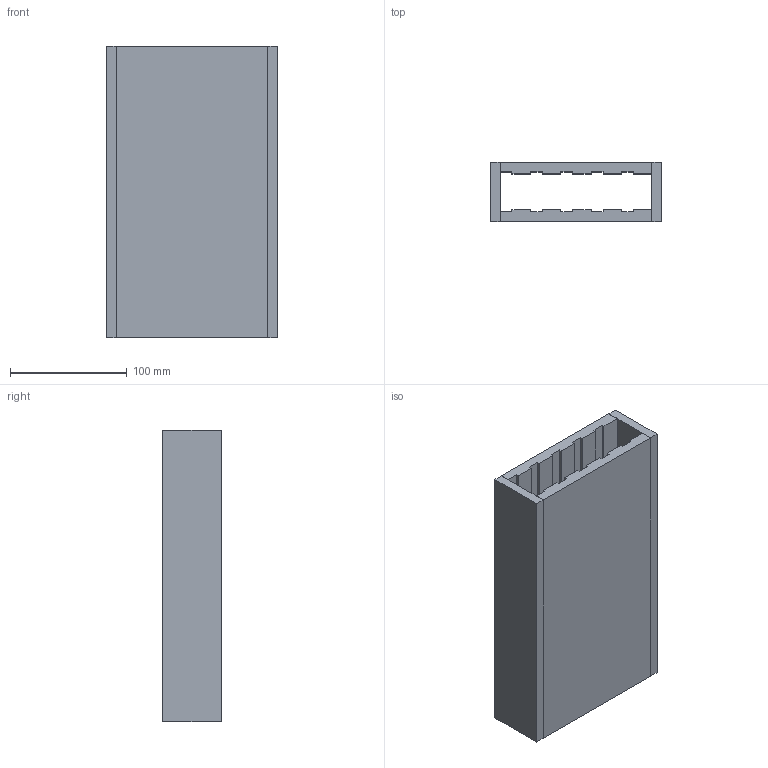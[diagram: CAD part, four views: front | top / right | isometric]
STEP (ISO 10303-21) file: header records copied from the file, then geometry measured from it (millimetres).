
FILE_DESCRIPTION (( 'STEP AP203' ), '1' );
FILE_NAME ('E1.S_25mm.STEP', '2021-08-02T20:59:38', ( '' ), ( '' ), 'SwSTEP 2.0', 'SolidWorks 2020', '' );
FILE_SCHEMA (( 'CONFIG_CONTROL_DESIGN' ));
Length unit declared in the file: millimetre
Products named in the file (3): E1.S_25mm; SSD Wind Tunnel Fixture_SIDES_E1.S; SSD Wind Tunnel Fixture_BASE_E1.S 25mm
Assembly tree (4 placements, depth 2):
  E1.S_25mm
    SSD Wind Tunnel Fixture_BASE_E1.S 25mm  x2
    SSD Wind Tunnel Fixture_SIDES_E1.S  x2
Bounding box: 146 x 50.5 x 250 mm (x, y, z)
Volume: 801250 mm3; surface area: 212910 mm2
Topology: 4 solids, 4 shells, 60 faces, 156 edges, 104 vertices
Faces by surface type: plane 60
Entity records: 1271 total; most frequent: CARTESIAN_POINT 167, ORIENTED_EDGE 156, DIRECTION 152, LINE 78, EDGE_CURVE 78, VECTOR 78, VERTEX_POINT 52, AXIS2_PLACEMENT_3D 37
